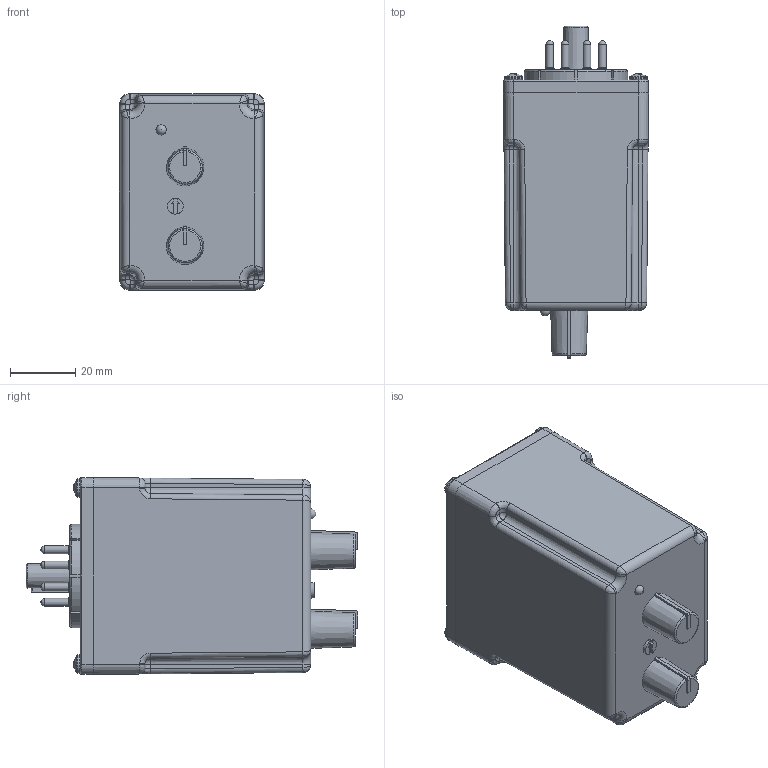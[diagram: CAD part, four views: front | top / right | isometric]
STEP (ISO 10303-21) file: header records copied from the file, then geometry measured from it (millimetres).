
FILE_DESCRIPTION(('FreeCAD Model'),'2;1');
FILE_NAME('Open CASCADE Shape Model','2023-06-06T13:51:44',(''),(''), 'Open CASCADE STEP processor 7.6','FreeCAD','Unknown');
FILE_SCHEMA(('AUTOMOTIVE_DESIGN { 1 0 10303 214 1 1 1 1 }'));
Products named in the file (1): Compound
Bounding box: 44.45 x 101.73 x 60.33 mm (x, y, z)
Surface area: 44929.2 mm2 (no closed solid volume)
Topology: 0 solids, 22 shells, 1888 faces, 4831 edges, 2997 vertices
Faces by surface type: plane 720, cylinder 685, bspline 200, torus 125, cone 61, sphere 57, revolution 40
Full cylindrical faces by diameter (mm): 0.254 x16, 1.257 x8, 1.714 x8, 1.905 x16, 2.362 x16, 2.464 x8, 3.175 x4, 4.191 x8, 4.83 x1, 7.925 x1
Entity records: 176679 total; most frequent: CARTESIAN_POINT 85700, DIRECTION 15579, ORIENTED_EDGE 9516, PCURVE 9516, DEFINITIONAL_REPRESENTATION 9516, LINE 9266, VECTOR 9266, EDGE_CURVE 4766
